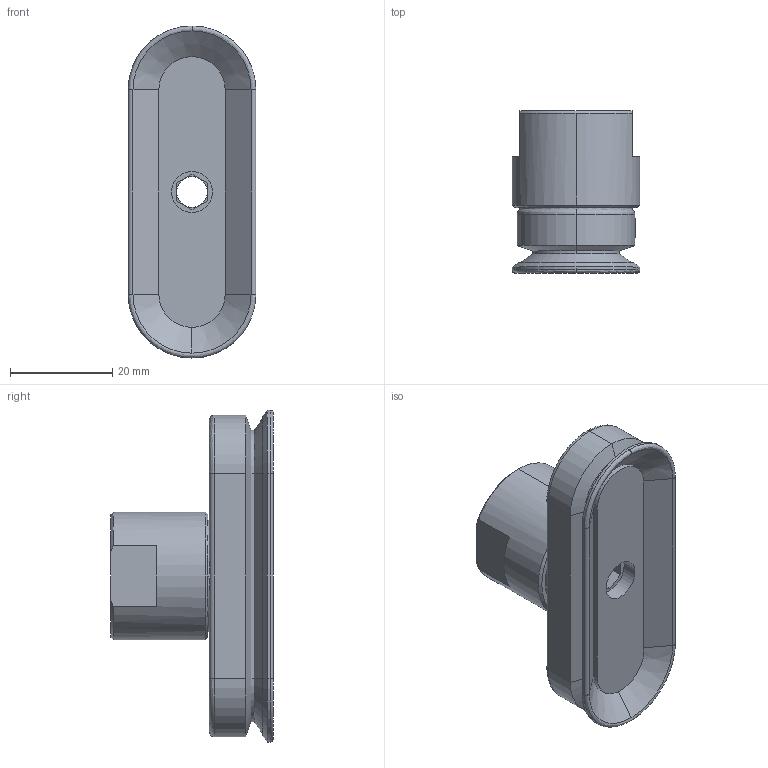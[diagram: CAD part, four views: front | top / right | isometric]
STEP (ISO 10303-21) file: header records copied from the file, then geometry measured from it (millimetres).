
FILE_DESCRIPTION (( 'STEP AP214' ), '1' );
FILE_NAME ('VOFC2565.STEP', '2019-11-26T02:06:06', ( '微软用户' ), ( '微软中国' ), 'SwSTEP 2.0', 'SolidWorks 2016', '' );
FILE_SCHEMA (( 'AUTOMOTIVE_DESIGN' ));
Length unit declared in the file: millimetre
Products named in the file (1): VOFC2565
Bounding box: 25 x 31.8 x 65 mm (x, y, z)
Volume: 19504 mm3; surface area: 9215.2 mm2
Topology: 2 solids, 2 shells, 151 faces, 353 edges, 216 vertices
Faces by surface type: plane 76, cylinder 29, bspline 23, cone 23
Entity records: 7916 total; most frequent: CARTESIAN_POINT 2859, ORIENTED_EDGE 706, DIRECTION 657, EDGE_CURVE 353, AXIS2_PLACEMENT_3D 220, LINE 217, VECTOR 217, VERTEX_POINT 216
